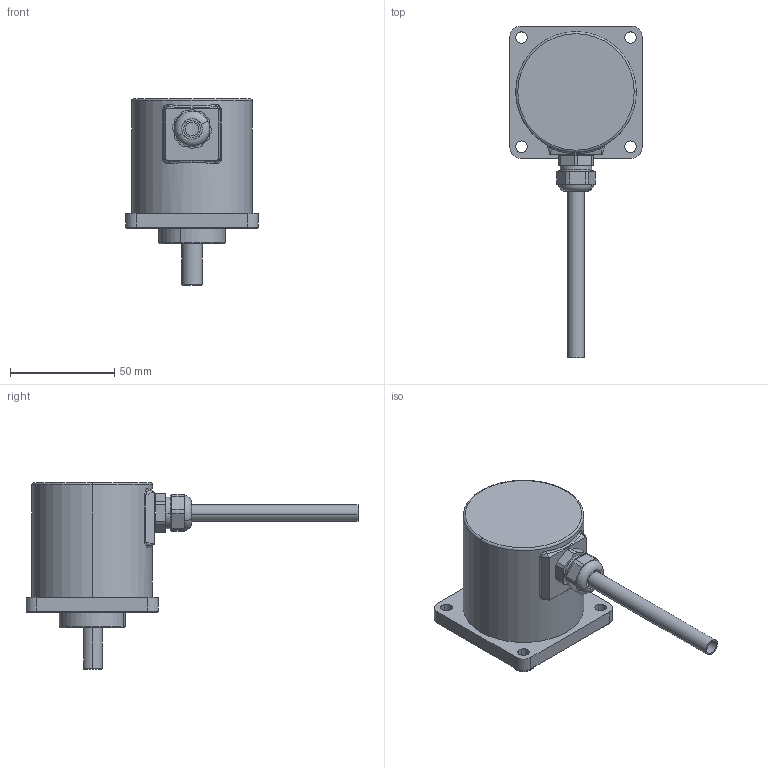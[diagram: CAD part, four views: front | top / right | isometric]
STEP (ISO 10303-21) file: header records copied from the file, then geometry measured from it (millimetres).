
FILE_DESCRIPTION (( 'STEP AP214' ), '1' );
FILE_NAME ('8.5803.M2X2.XXXX.STEP', '2010-12-17T13:42:26', ( 'admin' ), ( 'Fritz Kübler GmbH' ), 'SwSTEP 2.0', 'SolidWorks 2009', '' );
FILE_SCHEMA (( 'AUTOMOTIVE_DESIGN' ));
Length unit declared in the file: millimetre
Products named in the file (1): 8.5803.M2X2.XXXX
Bounding box: 63.5 x 159.55 x 89.55 mm (x, y, z)
Surface area: 28214.9 mm2 (no closed solid volume)
Topology: 0 solids, 9 shells, 128 faces, 317 edges, 203 vertices
Faces by surface type: cylinder 47, plane 46, torus 12, cone 12, bspline 11
Entity records: 6268 total; most frequent: CARTESIAN_POINT 1763, DIRECTION 684, ORIENTED_EDGE 590, EDGE_CURVE 317, AXIS2_PLACEMENT_3D 277, VERTEX_POINT 203, CIRCLE 159, EDGE_LOOP 149
